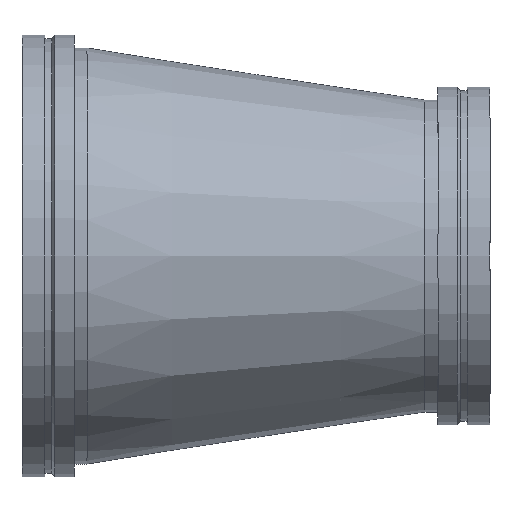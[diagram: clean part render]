
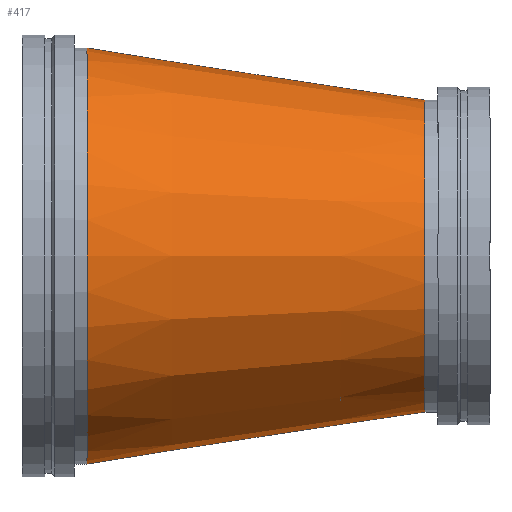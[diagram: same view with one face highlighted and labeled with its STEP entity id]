
A CAD part, front view. The second image highlights one B-rep face of the part: STEP entity #417.
In plain terms, the highlighted conical face has half-angle 8.746 degrees and reference radius 355.6 mm.
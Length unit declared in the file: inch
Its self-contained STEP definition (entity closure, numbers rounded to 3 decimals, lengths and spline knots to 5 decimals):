
#46=CONICAL_SURFACE('',#475,14.,0.153);
#54=LINE('',#739,#68);
#68=VECTOR('',#587,14.);
#101=FACE_OUTER_BOUND('',#124,.T.);
#124=EDGE_LOOP('',(#315,#316,#317,#318,#319,#320));
#155=CIRCLE('',#473,16.);
#156=CIRCLE('',#474,16.);
#157=CIRCLE('',#476,12.);
#158=CIRCLE('',#477,12.);
#195=VERTEX_POINT('',#729);
#196=VERTEX_POINT('',#730);
#197=VERTEX_POINT('',#735);
#198=VERTEX_POINT('',#736);
#239=EDGE_CURVE('',#195,#196,#155,.T.);
#240=EDGE_CURVE('',#196,#195,#156,.T.);
#242=EDGE_CURVE('',#197,#198,#157,.T.);
#243=EDGE_CURVE('',#198,#197,#158,.T.);
#244=EDGE_CURVE('',#198,#196,#54,.T.);
#315=ORIENTED_EDGE('',*,*,#242,.F.);
#316=ORIENTED_EDGE('',*,*,#243,.F.);
#317=ORIENTED_EDGE('',*,*,#244,.T.);
#318=ORIENTED_EDGE('',*,*,#240,.T.);
#319=ORIENTED_EDGE('',*,*,#239,.T.);
#320=ORIENTED_EDGE('',*,*,#244,.F.);
#417=ADVANCED_FACE('',(#101),#46,.T.);
#473=AXIS2_PLACEMENT_3D('',#731,#576,#577);
#474=AXIS2_PLACEMENT_3D('',#732,#578,#579);
#475=AXIS2_PLACEMENT_3D('',#734,#581,#582);
#476=AXIS2_PLACEMENT_3D('',#737,#583,#584);
#477=AXIS2_PLACEMENT_3D('',#738,#585,#586);
#576=DIRECTION('center_axis',(1.,0.,0.));
#577=DIRECTION('ref_axis',(0.,0.,-1.));
#578=DIRECTION('center_axis',(1.,0.,0.));
#579=DIRECTION('ref_axis',(0.,0.,-1.));
#581=DIRECTION('center_axis',(-1.,0.,0.));
#582=DIRECTION('ref_axis',(0.,1.,0.));
#583=DIRECTION('center_axis',(1.,0.,0.));
#584=DIRECTION('ref_axis',(0.,0.,-1.));
#585=DIRECTION('center_axis',(1.,0.,0.));
#586=DIRECTION('ref_axis',(0.,0.,-1.));
#587=DIRECTION('',(-0.988,-0.152,0.));
#729=CARTESIAN_POINT('',(5.,16.,0.));
#730=CARTESIAN_POINT('',(5.,-16.,0.));
#731=CARTESIAN_POINT('Origin',(5.,0.,0.));
#732=CARTESIAN_POINT('Origin',(5.,0.,0.));
#734=CARTESIAN_POINT('Origin',(18.,0.,0.));
#735=CARTESIAN_POINT('',(31.,12.,0.));
#736=CARTESIAN_POINT('',(31.,-12.,0.));
#737=CARTESIAN_POINT('Origin',(31.,0.,0.));
#738=CARTESIAN_POINT('Origin',(31.,0.,0.));
#739=CARTESIAN_POINT('',(18.,-14.,0.));
